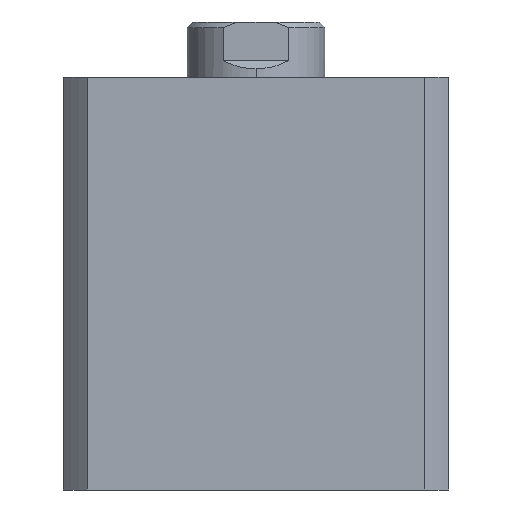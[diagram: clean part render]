
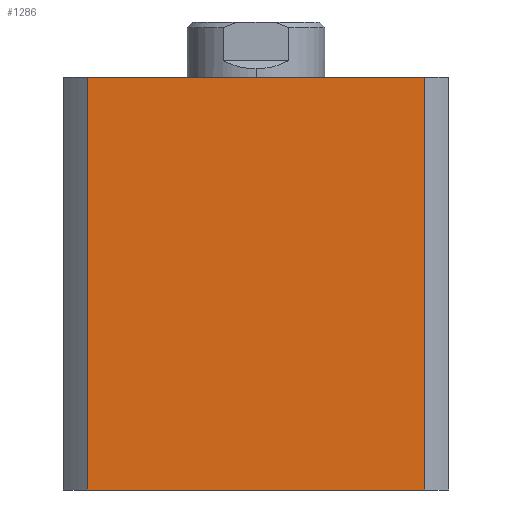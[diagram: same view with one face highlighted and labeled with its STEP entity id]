
A CAD part, left-side view. The second image highlights one B-rep face of the part: STEP entity #1286.
In plain terms, the highlighted planar face has unit normal (-1, 0, 0).
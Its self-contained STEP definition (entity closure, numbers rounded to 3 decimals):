
#43 = CARTESIAN_POINT ( 'NONE',  ( -35., 30.615, 75. ) ) ;
#584 = EDGE_CURVE ( 'NONE', #1634, #1625, #1592, .T. ) ;
#748 = AXIS2_PLACEMENT_3D ( 'NONE', #3818, #3931, #3930 ) ;
#1046 = CARTESIAN_POINT ( 'NONE',  ( -35., 0., 75. ) ) ;
#1047 = DIRECTION ( 'NONE',  ( 0., -1., 0. ) ) ;
#1147 = DIRECTION ( 'NONE',  ( 0., 0., -1. ) ) ;
#1148 = CARTESIAN_POINT ( 'NONE',  ( -35., -30.615, 75. ) ) ;
#1174 = CARTESIAN_POINT ( 'NONE',  ( -35., 30.615, 75. ) ) ;
#1175 = DIRECTION ( 'NONE',  ( 0., 0., -1. ) ) ;
#1286 = ADVANCED_FACE ( 'NONE', ( #1398 ), #3934, .F. ) ;
#1398 = FACE_OUTER_BOUND ( 'NONE', #2376, .T. ) ;
#1589 = VECTOR ( 'NONE', #4246, 1000. ) ;
#1592 = LINE ( 'NONE', #4247, #1589 ) ;
#1625 = VERTEX_POINT ( 'NONE', #3826 ) ;
#1634 = VERTEX_POINT ( 'NONE', #3817 ) ;
#1643 = ORIENTED_EDGE ( 'NONE', *, *, #584, .T. ) ;
#1644 = ORIENTED_EDGE ( 'NONE', *, *, #3287, .F. ) ;
#1645 = ORIENTED_EDGE ( 'NONE', *, *, #3267, .F. ) ;
#1646 = ORIENTED_EDGE ( 'NONE', *, *, #3290, .T. ) ;
#1751 = LINE ( 'NONE', #1046, #4652 ) ;
#2284 = VERTEX_POINT ( 'NONE', #2899 ) ;
#2376 = EDGE_LOOP ( 'NONE', ( #1643, #1644, #1645, #1646 ) ) ;
#2486 = VERTEX_POINT ( 'NONE', #43 ) ;
#2899 = CARTESIAN_POINT ( 'NONE',  ( -35., -30.615, 75. ) ) ;
#3267 = EDGE_CURVE ( 'NONE', #2486, #2284, #1751, .T. ) ;
#3287 = EDGE_CURVE ( 'NONE', #2284, #1625, #4633, .T. ) ;
#3290 = EDGE_CURVE ( 'NONE', #2486, #1634, #4629, .T. ) ;
#3817 = CARTESIAN_POINT ( 'NONE',  ( -35., 30.615, 0. ) ) ;
#3818 = CARTESIAN_POINT ( 'NONE',  ( -35., 0., 75. ) ) ;
#3826 = CARTESIAN_POINT ( 'NONE',  ( -35., -30.615, 0. ) ) ;
#3930 = DIRECTION ( 'NONE',  ( 0., 1., 0. ) ) ;
#3931 = DIRECTION ( 'NONE',  ( 1., 0., 0. ) ) ;
#3934 = PLANE ( 'NONE',  #748 ) ;
#4246 = DIRECTION ( 'NONE',  ( 0., -1., 0. ) ) ;
#4247 = CARTESIAN_POINT ( 'NONE',  ( -35., 0., 0. ) ) ;
#4626 = VECTOR ( 'NONE', #1175, 1000. ) ;
#4629 = LINE ( 'NONE', #1174, #4626 ) ;
#4631 = VECTOR ( 'NONE', #1147, 1000. ) ;
#4633 = LINE ( 'NONE', #1148, #4631 ) ;
#4652 = VECTOR ( 'NONE', #1047, 1000. ) ;
